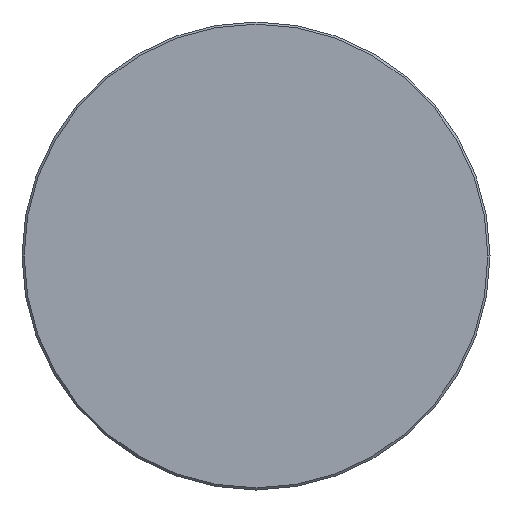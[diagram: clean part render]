
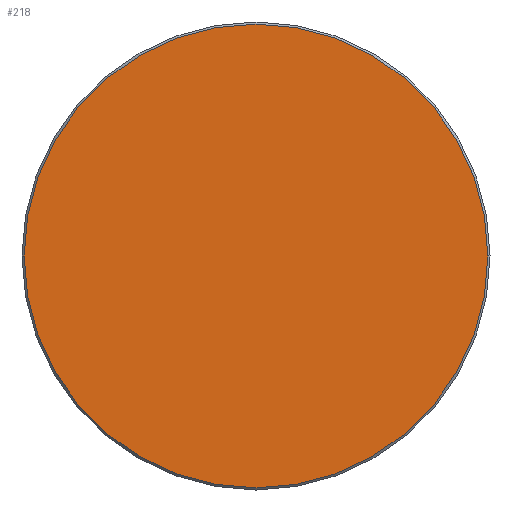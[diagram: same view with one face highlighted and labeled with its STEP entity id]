
A CAD part, left-side view. The second image highlights one B-rep face of the part: STEP entity #218.
In plain terms, the highlighted planar face has unit normal (-1, 0, 0).
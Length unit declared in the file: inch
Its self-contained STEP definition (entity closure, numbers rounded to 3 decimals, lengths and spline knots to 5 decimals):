
#33 = DIRECTION ( 'NONE',  ( -1., 0., 0. ) ) ;
#36 = AXIS2_PLACEMENT_3D ( 'NONE', #123, #33, #147 ) ;
#81 = PLANE ( 'NONE',  #36 ) ;
#97 = ORIENTED_EDGE ( 'NONE', *, *, #216, .T. ) ;
#120 = DIRECTION ( 'NONE',  ( -1., 0., 0. ) ) ;
#123 = CARTESIAN_POINT ( 'NONE',  ( 0., 0., 0. ) ) ;
#132 = AXIS2_PLACEMENT_3D ( 'NONE', #158, #238, #181 ) ;
#133 = ORIENTED_EDGE ( 'NONE', *, *, #262, .T. ) ;
#135 = CARTESIAN_POINT ( 'NONE',  ( 0., -0.4335, 0. ) ) ;
#137 = FACE_OUTER_BOUND ( 'NONE', #248, .T. ) ;
#147 = DIRECTION ( 'NONE',  ( 0., -1., 0. ) ) ;
#151 = DIRECTION ( 'NONE',  ( 0., -1., 0. ) ) ;
#158 = CARTESIAN_POINT ( 'NONE',  ( 0., 0., 0. ) ) ;
#178 = CARTESIAN_POINT ( 'NONE',  ( 0., 0.4335, 0. ) ) ;
#181 = DIRECTION ( 'NONE',  ( 0., -1., 0. ) ) ;
#201 = VERTEX_POINT ( 'NONE', #178 ) ;
#216 = EDGE_CURVE ( 'NONE', #201, #346, #368, .T. ) ;
#218 = ADVANCED_FACE ( 'NONE', ( #137 ), #81, .T. ) ;
#238 = DIRECTION ( 'NONE',  ( -1., 0., 0. ) ) ;
#248 = EDGE_LOOP ( 'NONE', ( #97, #133 ) ) ;
#262 = EDGE_CURVE ( 'NONE', #346, #201, #312, .T. ) ;
#266 = AXIS2_PLACEMENT_3D ( 'NONE', #348, #120, #151 ) ;
#312 = CIRCLE ( 'NONE', #132, 0.4335 ) ;
#346 = VERTEX_POINT ( 'NONE', #135 ) ;
#348 = CARTESIAN_POINT ( 'NONE',  ( 0., 0., 0. ) ) ;
#368 = CIRCLE ( 'NONE', #266, 0.4335 ) ;
